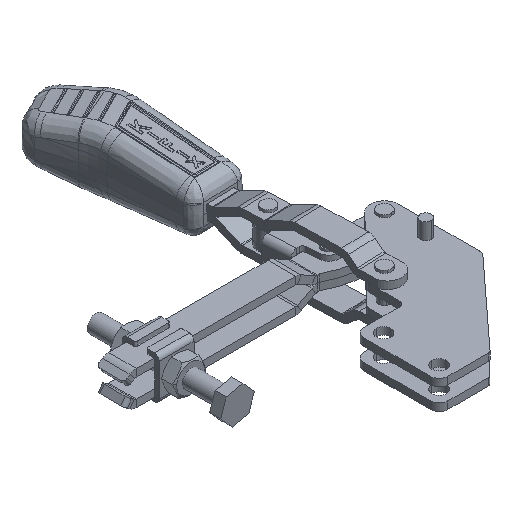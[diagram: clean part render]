
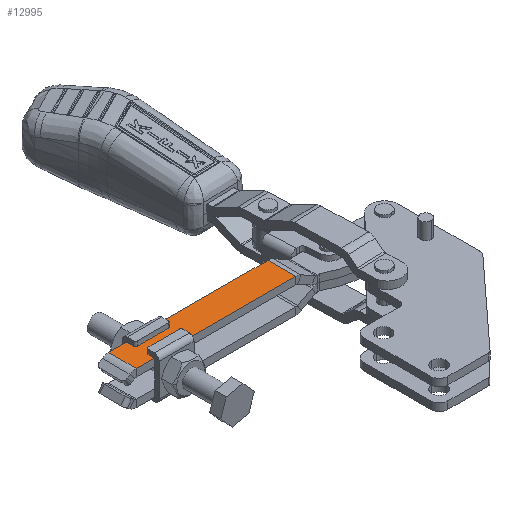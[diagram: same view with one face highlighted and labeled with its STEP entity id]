
A CAD part, isometric view. The second image highlights one B-rep face of the part: STEP entity #12995.
In plain terms, the highlighted planar face has unit normal (0, 0, 1) as drawn and (1, 0, 0) by its records, which use the part's own axes.
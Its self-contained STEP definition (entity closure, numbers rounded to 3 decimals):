
#478 = EDGE_CURVE ( 'NONE', #15949, #5602, #11357, .T. ) ;
#636 = CARTESIAN_POINT ( 'NONE',  ( 6.906, 96.193, 8. ) ) ;
#817 = VECTOR ( 'NONE', #1109, 1000. ) ;
#1109 = DIRECTION ( 'NONE',  ( 0., 0., -1. ) ) ;
#3414 = AXIS2_PLACEMENT_3D ( 'NONE', #18029, #24055, #12084 ) ;
#3478 = EDGE_CURVE ( 'NONE', #16212, #15949, #22524, .T. ) ;
#3583 = ORIENTED_EDGE ( 'NONE', *, *, #3478, .F. ) ;
#5239 = FACE_OUTER_BOUND ( 'NONE', #18658, .T. ) ;
#5537 = LINE ( 'NONE', #13126, #817 ) ;
#5602 = VERTEX_POINT ( 'NONE', #8908 ) ;
#5835 = CARTESIAN_POINT ( 'NONE',  ( 6.906, 96.193, -8. ) ) ;
#5914 = DIRECTION ( 'NONE',  ( 0., -1., 0. ) ) ;
#7324 = ORIENTED_EDGE ( 'NONE', *, *, #7646, .T. ) ;
#7646 = EDGE_CURVE ( 'NONE', #16212, #24980, #14524, .T. ) ;
#8908 = CARTESIAN_POINT ( 'NONE',  ( 6.906, 4.423, -8. ) ) ;
#10090 = PLANE ( 'NONE',  #3414 ) ;
#10509 = ORIENTED_EDGE ( 'NONE', *, *, #13399, .T. ) ;
#11357 = LINE ( 'NONE', #15915, #20720 ) ;
#11896 = VECTOR ( 'NONE', #12335, 1000. ) ;
#12084 = DIRECTION ( 'NONE',  ( 0., 1., 0. ) ) ;
#12335 = DIRECTION ( 'NONE',  ( 0., 0., -1. ) ) ;
#12350 = CARTESIAN_POINT ( 'NONE',  ( 6.906, 4.423, 8. ) ) ;
#12995 = ADVANCED_FACE ( 'NONE', ( #5239 ), #10090, .T. ) ;
#13126 = CARTESIAN_POINT ( 'NONE',  ( 6.906, 4.423, 8. ) ) ;
#13266 = ORIENTED_EDGE ( 'NONE', *, *, #478, .F. ) ;
#13399 = EDGE_CURVE ( 'NONE', #24980, #5602, #5537, .T. ) ;
#13551 = DIRECTION ( 'NONE',  ( 0., -1., 0. ) ) ;
#13880 = VECTOR ( 'NONE', #13551, 1000. ) ;
#14369 = CARTESIAN_POINT ( 'NONE',  ( 6.906, 96.193, 8. ) ) ;
#14524 = LINE ( 'NONE', #17477, #13880 ) ;
#15915 = CARTESIAN_POINT ( 'NONE',  ( 6.906, 96.7, -8. ) ) ;
#15949 = VERTEX_POINT ( 'NONE', #5835 ) ;
#16212 = VERTEX_POINT ( 'NONE', #636 ) ;
#17477 = CARTESIAN_POINT ( 'NONE',  ( 6.906, 96.7, 8. ) ) ;
#18029 = CARTESIAN_POINT ( 'NONE',  ( 6.906, 96.7, 8. ) ) ;
#18658 = EDGE_LOOP ( 'NONE', ( #13266, #3583, #7324, #10509 ) ) ;
#20720 = VECTOR ( 'NONE', #5914, 1000. ) ;
#22524 = LINE ( 'NONE', #14369, #11896 ) ;
#24055 = DIRECTION ( 'NONE',  ( 1., 0., 0. ) ) ;
#24980 = VERTEX_POINT ( 'NONE', #12350 ) ;
